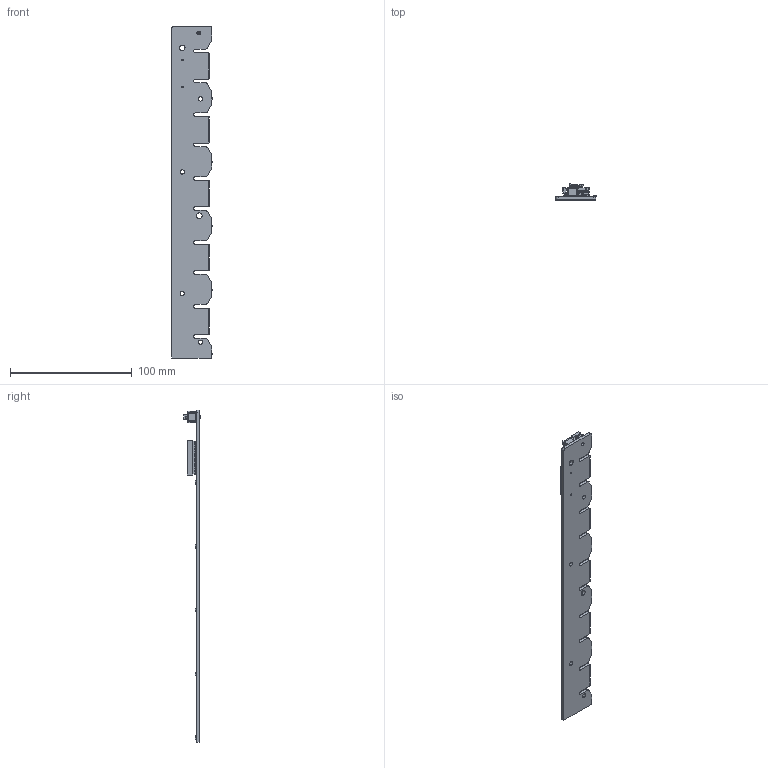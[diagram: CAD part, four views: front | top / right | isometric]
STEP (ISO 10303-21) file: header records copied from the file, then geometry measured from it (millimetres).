
FILE_DESCRIPTION((''),'2;1');
FILE_NAME('02_FAN_PCB_ASM_CSGR_ASM','2019-02-13T',('calvi'),(''),'CREO PARAMETRIC BY PTC INC, 2015480','CREO PARAMETRIC BY PTC INC, 2015480','');
FILE_SCHEMA(('CONFIG_CONTROL_DESIGN'));
Products named in the file (7): 02_FAN_PCB_CSGR; 25-0832-02_1_6_1_1; HS5513; HM4002E__HOUSING; C013-3104-2117-0510-WO-RIB; HM4002E-LH_ASM; 02_FAN_PCB_ASM_CSGR_ASM
Assembly tree (10 placements, depth 3):
  02_FAN_PCB_ASM_CSGR_ASM
    02_FAN_PCB_CSGR
    25-0832-02_1_6_1_1  x5
    HS5513
    HM4002E-LH_ASM
      HM4002E__HOUSING
      C013-3104-2117-0510-WO-RIB
Bounding box: 33.2 x 13.84 x 273 mm (x, y, z)
Volume: 20784.5 mm3; surface area: 21490.5 mm2
Topology: 9 solids, 9 shells, 1499 faces, 4065 edges, 2618 vertices
Faces by surface type: plane 1288, cylinder 205, sphere 4, cone 2
Entity records: 61011 total; most frequent: CARTESIAN_POINT 7736, ORIENTED_EDGE 7642, DIRECTION 7077, PRESENTATION_STYLE_ASSIGNMENT 3961, EDGE_CURVE 3821, VECTOR 3413, LINE 3413, STYLED_ITEM 3098
